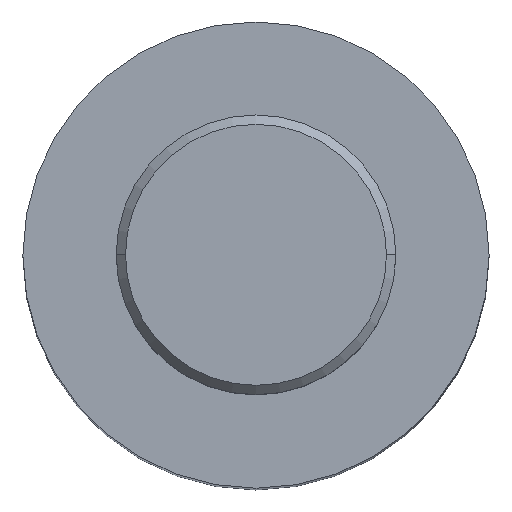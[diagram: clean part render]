
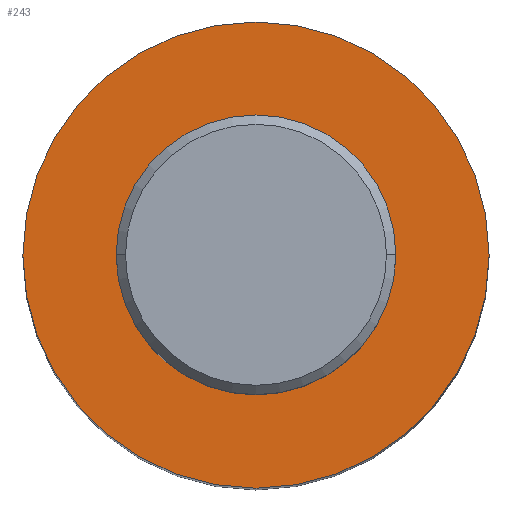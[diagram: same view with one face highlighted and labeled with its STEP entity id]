
A CAD part, top view. The second image highlights one B-rep face of the part: STEP entity #243.
In plain terms, the highlighted planar face has unit normal (0, 0, 1).
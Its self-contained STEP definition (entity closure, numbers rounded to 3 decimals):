
#21 = AXIS2_PLACEMENT_3D ( 'NONE', #443, #97, #573 ) ;
#28 = ORIENTED_EDGE ( 'NONE', *, *, #424, .T. ) ;
#51 = DIRECTION ( 'NONE',  ( 1., 0., 0. ) ) ;
#60 = CIRCLE ( 'NONE', #21, 25. ) ;
#75 = EDGE_CURVE ( 'NONE', #930, #349, #409, .T. ) ;
#92 = FACE_OUTER_BOUND ( 'NONE', #518, .T. ) ;
#97 = DIRECTION ( 'NONE',  ( 0., 0., 1. ) ) ;
#137 = VERTEX_POINT ( 'NONE', #206 ) ;
#140 = AXIS2_PLACEMENT_3D ( 'NONE', #202, #675, #397 ) ;
#192 = EDGE_CURVE ( 'NONE', #137, #425, #629, .T. ) ;
#202 = CARTESIAN_POINT ( 'NONE',  ( 0., 0., 111. ) ) ;
#206 = CARTESIAN_POINT ( 'NONE',  ( 14.5, 0., 111. ) ) ;
#224 = EDGE_LOOP ( 'NONE', ( #790, #596 ) ) ;
#236 = CIRCLE ( 'NONE', #140, 14.5 ) ;
#243 = ADVANCED_FACE ( 'NONE', ( #458, #92 ), #723, .T. ) ;
#275 = DIRECTION ( 'NONE',  ( 0., 0., 1. ) ) ;
#287 = DIRECTION ( 'NONE',  ( 0., 0., 1. ) ) ;
#349 = VERTEX_POINT ( 'NONE', #792 ) ;
#355 = ORIENTED_EDGE ( 'NONE', *, *, #75, .T. ) ;
#356 = CARTESIAN_POINT ( 'NONE',  ( 0., 0., 111. ) ) ;
#381 = AXIS2_PLACEMENT_3D ( 'NONE', #405, #275, #51 ) ;
#397 = DIRECTION ( 'NONE',  ( 1., 0., 0. ) ) ;
#405 = CARTESIAN_POINT ( 'NONE',  ( 0., 0., 111. ) ) ;
#409 = CIRCLE ( 'NONE', #738, 25. ) ;
#424 = EDGE_CURVE ( 'NONE', #349, #930, #60, .T. ) ;
#425 = VERTEX_POINT ( 'NONE', #511 ) ;
#443 = CARTESIAN_POINT ( 'NONE',  ( 0., 0., 111. ) ) ;
#458 = FACE_BOUND ( 'NONE', #224, .T. ) ;
#507 = CARTESIAN_POINT ( 'NONE',  ( -25., 0., 111. ) ) ;
#511 = CARTESIAN_POINT ( 'NONE',  ( -14.5, 0., 111. ) ) ;
#518 = EDGE_LOOP ( 'NONE', ( #355, #28 ) ) ;
#573 = DIRECTION ( 'NONE',  ( 1., 0., 0. ) ) ;
#596 = ORIENTED_EDGE ( 'NONE', *, *, #192, .F. ) ;
#629 = CIRCLE ( 'NONE', #381, 14.5 ) ;
#633 = DIRECTION ( 'NONE',  ( 0., 0., 1. ) ) ;
#663 = EDGE_CURVE ( 'NONE', #425, #137, #236, .T. ) ;
#675 = DIRECTION ( 'NONE',  ( 0., 0., 1. ) ) ;
#713 = CARTESIAN_POINT ( 'NONE',  ( 0., 0., 111. ) ) ;
#721 = AXIS2_PLACEMENT_3D ( 'NONE', #713, #633, #866 ) ;
#723 = PLANE ( 'NONE',  #721 ) ;
#738 = AXIS2_PLACEMENT_3D ( 'NONE', #356, #287, #946 ) ;
#790 = ORIENTED_EDGE ( 'NONE', *, *, #663, .F. ) ;
#792 = CARTESIAN_POINT ( 'NONE',  ( 25., 0., 111. ) ) ;
#866 = DIRECTION ( 'NONE',  ( 1., 0., 0. ) ) ;
#930 = VERTEX_POINT ( 'NONE', #507 ) ;
#946 = DIRECTION ( 'NONE',  ( 1., 0., 0. ) ) ;
